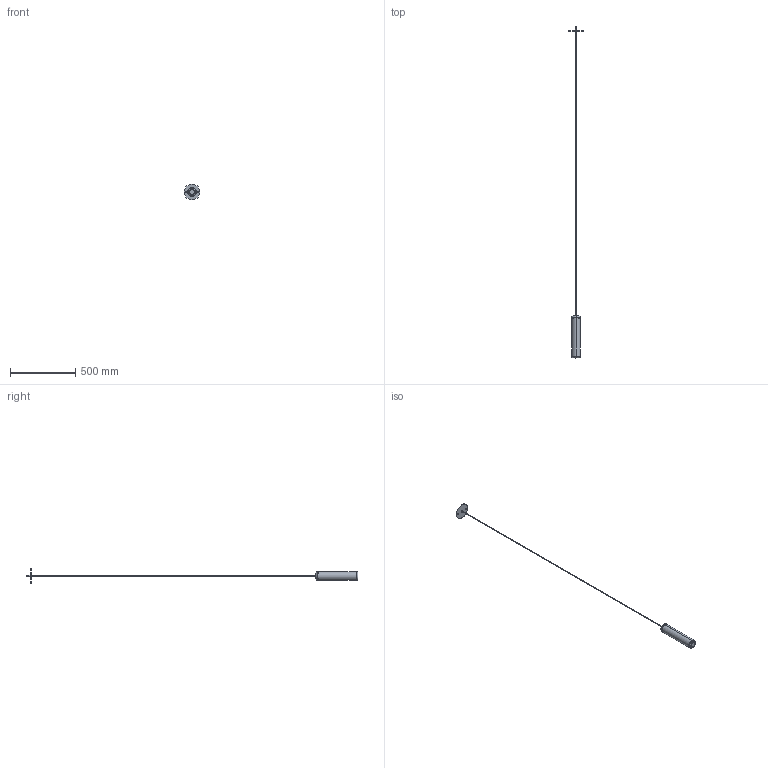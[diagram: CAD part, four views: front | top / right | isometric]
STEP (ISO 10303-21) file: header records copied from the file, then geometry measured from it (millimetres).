
FILE_DESCRIPTION (( 'STEP AP203' ), '1' );
FILE_NAME ('USURBMIGXXXXLCC-Rev 01-PER 3D.STEP', '2026-07-07T16:23:56', ( '' ), ( '' ), 'SwSTEP 2.0', 'SolidWorks 2026', '' );
FILE_SCHEMA (( 'CONFIG_CONTROL_DESIGN' ));
Length unit declared in the file: millimetre
Products named in the file (12): WSCM2C0051-0100-01; USURBMIGXXXXLCC-PENDENTE USA-Rev 01; URBAN MINI-PL1-05-V2; WSASS-000000038-00; CAVO ELETTRICO+RIV TESSUTO; URBAN MINI-PL1-08-V1; URBAN MINI-SP1-01-V3; TAPPO COPRIVITE ADESIVO BIANCO RAL 9016 RAGGRIZZATO OPACO; URBAN MINI-PL1-02-V1; URBAN MINI-PL1-06-V3; WSCM2A0032-0700-00; USURBMIGXXXXLCC-Rev 01-PER 3D
Assembly tree (12 placements, depth 3):
  USURBMIGXXXXLCC-Rev 01-PER 3D
    USURBMIGXXXXLCC-PENDENTE USA-Rev 01
      URBAN MINI-SP1-01-V3
      URBAN MINI-PL1-05-V2
      URBAN MINI-PL1-06-V3
      URBAN MINI-PL1-02-V1
      URBAN MINI-PL1-08-V1
      CAVO ELETTRICO+RIV TESSUTO
    WSASS-000000038-00
      WSCM2C0051-0100-01
      WSCM2A0032-0700-00
      TAPPO COPRIVITE ADESIVO BIANCO RAL 9016 RAGGRIZZATO OPACO  x2
Bounding box: 120 x 2537 x 120 mm (x, y, z)
Volume: 352444.9 mm3; surface area: 224046.4 mm2
Topology: 10 solids, 10 shells, 216 faces, 458 edges, 268 vertices
Faces by surface type: cone 82, cylinder 75, plane 32, torus 27
Entity records: 7124 total; most frequent: DIRECTION 1174, CARTESIAN_POINT 1016, ORIENTED_EDGE 896, AXIS2_PLACEMENT_3D 510, EDGE_CURVE 448, CIRCLE 281, VERTEX_POINT 264, EDGE_LOOP 246
